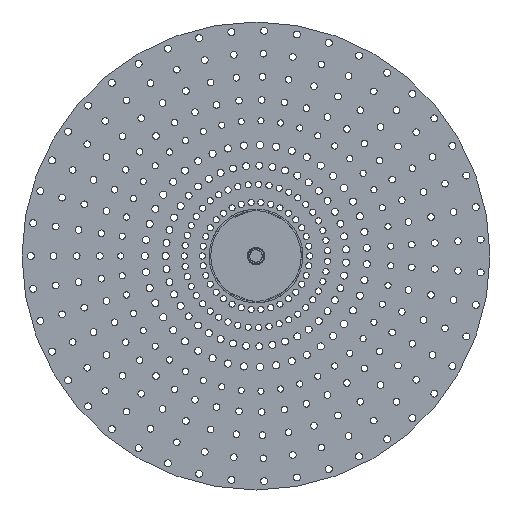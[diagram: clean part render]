
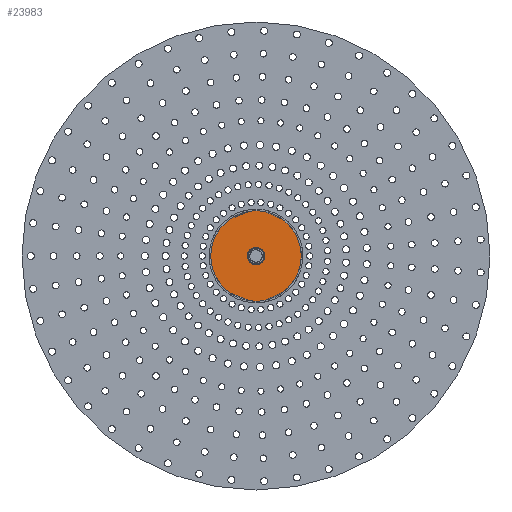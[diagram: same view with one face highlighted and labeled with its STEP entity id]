
A CAD part, left-side view. The second image highlights one B-rep face of the part: STEP entity #23983.
In plain terms, the highlighted free-form (B-spline) face has degree [1, 1] with [2, 2] control points.
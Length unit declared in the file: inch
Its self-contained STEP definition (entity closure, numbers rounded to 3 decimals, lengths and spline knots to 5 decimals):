
#513 = CARTESIAN_POINT ( 'NONE',  ( 0.63557, -1.60505, 0.61901 ) ) ;
#1145 = EDGE_LOOP ( 'NONE', ( #36042, #19466 ) ) ;
#2324 = CARTESIAN_POINT ( 'NONE',  ( 0.63557, -0.44962, 0.60531 ) ) ;
#3293 = VERTEX_POINT ( 'NONE', #9461 ) ;
#4752 =( BOUNDED_CURVE ( )  B_SPLINE_CURVE ( 3, ( #5235, #23967, #19116, #56855, #51423, #29362, #46870 ),
 .UNSPECIFIED., .F., .F. ) 
 B_SPLINE_CURVE_WITH_KNOTS ( ( 4, 3, 4 ),
 ( -3.14159, -1.5708, 0. ),
 .UNSPECIFIED. ) 
 CURVE ( )  GEOMETRIC_REPRESENTATION_ITEM ( )  RATIONAL_B_SPLINE_CURVE ( ( 1., 0.805, 0.805, 1., 0.805, 0.805, 1. ) ) 
 REPRESENTATION_ITEM ( '' )  );
#5044 = FACE_OUTER_BOUND ( 'NONE', #1145, .T. ) ;
#5235 = CARTESIAN_POINT ( 'NONE',  ( 0.63557, -0.44962, -1.67815 ) ) ;
#6293 = CARTESIAN_POINT ( 'NONE',  ( 0.63557, -0.32277, -0.31989 ) ) ;
#7143 = CARTESIAN_POINT ( 'NONE',  ( 0.63557, -2.73308, -1.67815 ) ) ;
#7200 = CARTESIAN_POINT ( 'NONE',  ( 0.63557, -0.88269, -0.31989 ) ) ;
#7618 =( BOUNDED_CURVE ( )  B_SPLINE_CURVE ( 3, ( #16529, #6293, #24722, #28944, #21065, #10824, #43683 ),
 .UNSPECIFIED., .F., .F. ) 
 B_SPLINE_CURVE_WITH_KNOTS ( ( 4, 3, 4 ),
 ( -3.14159, -1.5708, 0. ),
 .UNSPECIFIED. ) 
 CURVE ( )  GEOMETRIC_REPRESENTATION_ITEM ( )  RATIONAL_B_SPLINE_CURVE ( ( 1., 0.805, 0.805, 1., 0.805, 0.805, 1. ) ) 
 REPRESENTATION_ITEM ( '' )  );
#8431 = CARTESIAN_POINT ( 'NONE',  ( 0.63557, -0.44962, -0.31989 ) ) ;
#8950 = VERTEX_POINT ( 'NONE', #34692 ) ;
#9461 = CARTESIAN_POINT ( 'NONE',  ( 0.63557, -0.44962, -1.67815 ) ) ;
#9866 = CARTESIAN_POINT ( 'NONE',  ( 0.63557, 0.70582, -1.69186 ) ) ;
#10824 = CARTESIAN_POINT ( 'NONE',  ( 0.63557, -0.32277, -0.75296 ) ) ;
#14398 = CARTESIAN_POINT ( 'NONE',  ( 0.63557, -1.60505, -1.69186 ) ) ;
#16412 = EDGE_CURVE ( 'NONE', #50030, #8950, #7618, .T. ) ;
#16529 = CARTESIAN_POINT ( 'NONE',  ( 0.63557, -0.44962, -0.31989 ) ) ;
#19116 = CARTESIAN_POINT ( 'NONE',  ( 0.63557, 0.69212, -1.20523 ) ) ;
#19463 = CARTESIAN_POINT ( 'NONE',  ( 0.63557, -0.44962, 0.60531 ) ) ;
#19466 = ORIENTED_EDGE ( 'NONE', *, *, #28772, .F. ) ;
#20504 = CARTESIAN_POINT ( 'NONE',  ( 0.63557, -0.88269, -0.75296 ) ) ;
#21065 = CARTESIAN_POINT ( 'NONE',  ( 0.63557, -0.23308, -0.66327 ) ) ;
#23967 = CARTESIAN_POINT ( 'NONE',  ( 0.63557, 0.2192, -1.67815 ) ) ;
#23983 = ADVANCED_FACE ( 'NONE', ( #46387, #5044 ), #59491, .F. ) ;
#24722 = CARTESIAN_POINT ( 'NONE',  ( 0.63557, -0.23308, -0.40958 ) ) ;
#25282 = CARTESIAN_POINT ( 'NONE',  ( 0.63557, -2.73308, 0.60531 ) ) ;
#25626 = CARTESIAN_POINT ( 'NONE',  ( 0.63557, -0.44962, -0.31989 ) ) ;
#28772 = EDGE_CURVE ( 'NONE', #38558, #3293, #58239, .T. ) ;
#28944 = CARTESIAN_POINT ( 'NONE',  ( 0.63557, -0.23308, -0.53642 ) ) ;
#29362 = CARTESIAN_POINT ( 'NONE',  ( 0.63557, 0.2192, 0.60531 ) ) ;
#34692 = CARTESIAN_POINT ( 'NONE',  ( 0.63557, -0.44962, -0.75296 ) ) ;
#34954 = CARTESIAN_POINT ( 'NONE',  ( 0.63557, -0.44962, -0.75296 ) ) ;
#36042 = ORIENTED_EDGE ( 'NONE', *, *, #40342, .F. ) ;
#37700 = EDGE_CURVE ( 'NONE', #8950, #50030, #48293, .T. ) ;
#37928 = ORIENTED_EDGE ( 'NONE', *, *, #16412, .F. ) ;
#38558 = VERTEX_POINT ( 'NONE', #19463 ) ;
#40342 = EDGE_CURVE ( 'NONE', #3293, #38558, #4752, .T. ) ;
#43683 = CARTESIAN_POINT ( 'NONE',  ( 0.63557, -0.44962, -0.75296 ) ) ;
#46311 = EDGE_LOOP ( 'NONE', ( #59295, #37928 ) ) ;
#46387 = FACE_BOUND ( 'NONE', #46311, .T. ) ;
#46870 = CARTESIAN_POINT ( 'NONE',  ( 0.63557, -0.44962, 0.60531 ) ) ;
#48293 =( BOUNDED_CURVE ( )  B_SPLINE_CURVE ( 3, ( #34954, #20504, #7200, #25626 ),
 .UNSPECIFIED., .F., .F. ) 
 B_SPLINE_CURVE_WITH_KNOTS ( ( 4, 4 ),
 ( -3.14159, 0. ),
 .UNSPECIFIED. ) 
 CURVE ( )  GEOMETRIC_REPRESENTATION_ITEM ( )  RATIONAL_B_SPLINE_CURVE ( ( 1., 0.333, 0.333, 1. ) ) 
 REPRESENTATION_ITEM ( '' )  );
#48797 = CARTESIAN_POINT ( 'NONE',  ( 0.63557, -0.44962, -1.67815 ) ) ;
#50030 = VERTEX_POINT ( 'NONE', #8431 ) ;
#51423 = CARTESIAN_POINT ( 'NONE',  ( 0.63557, 0.69212, 0.13239 ) ) ;
#55773 = CARTESIAN_POINT ( 'NONE',  ( 0.63557, 0.70582, 0.61901 ) ) ;
#56855 = CARTESIAN_POINT ( 'NONE',  ( 0.63557, 0.69212, -0.53642 ) ) ;
#58239 =( BOUNDED_CURVE ( )  B_SPLINE_CURVE ( 3, ( #2324, #25282, #7143, #48797 ),
 .UNSPECIFIED., .F., .F. ) 
 B_SPLINE_CURVE_WITH_KNOTS ( ( 4, 4 ),
 ( -3.14159, 0. ),
 .UNSPECIFIED. ) 
 CURVE ( )  GEOMETRIC_REPRESENTATION_ITEM ( )  RATIONAL_B_SPLINE_CURVE ( ( 1., 0.333, 0.333, 1. ) ) 
 REPRESENTATION_ITEM ( '' )  );
#59295 = ORIENTED_EDGE ( 'NONE', *, *, #37700, .F. ) ;
#59491 = B_SPLINE_SURFACE_WITH_KNOTS ( 'NONE', 1, 1, ( 
 ( #513, #55773 ),
 ( #14398, #9866 ) ),
 .UNSPECIFIED., .F., .F., .F.,
 ( 2, 2 ),
 ( 2, 2 ),
 ( 0., 1. ),
 ( 0., 1. ),
 .UNSPECIFIED. ) ;
